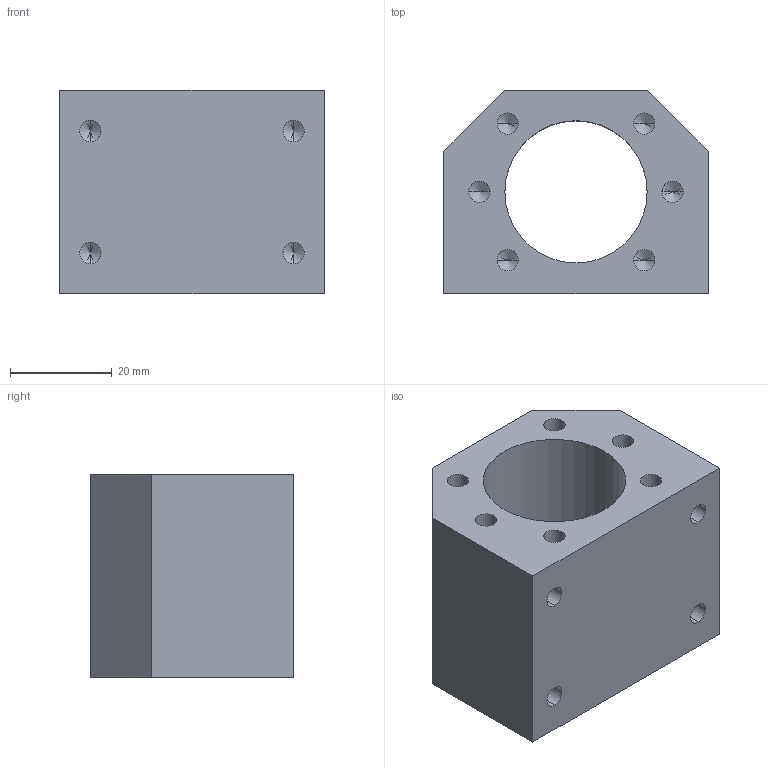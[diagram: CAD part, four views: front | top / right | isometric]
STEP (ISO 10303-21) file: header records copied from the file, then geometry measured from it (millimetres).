
FILE_DESCRIPTION (( 'STEP AP203' ), '1' );
FILE_NAME ('SSG1605.STEP', '2019-06-19T07:52:13', ( '' ), ( '' ), 'SwSTEP 2.0', 'SolidWorks 2016', '' );
FILE_SCHEMA (( 'CONFIG_CONTROL_DESIGN' ));
Length unit declared in the file: millimetre
Products named in the file (1): SSG1605
Bounding box: 52 x 40 x 40 mm (x, y, z)
Volume: 51033.7 mm3; surface area: 14616 mm2
Topology: 1 solids, 1 shells, 50 faces, 124 edges, 66 vertices
Faces by surface type: cylinder 22, cone 20, plane 8
Entity records: 1413 total; most frequent: DIRECTION 250, CARTESIAN_POINT 221, ORIENTED_EDGE 208, EDGE_CURVE 104, AXIS2_PLACEMENT_3D 95, VERTEX_POINT 66, EDGE_LOOP 62, LINE 60
